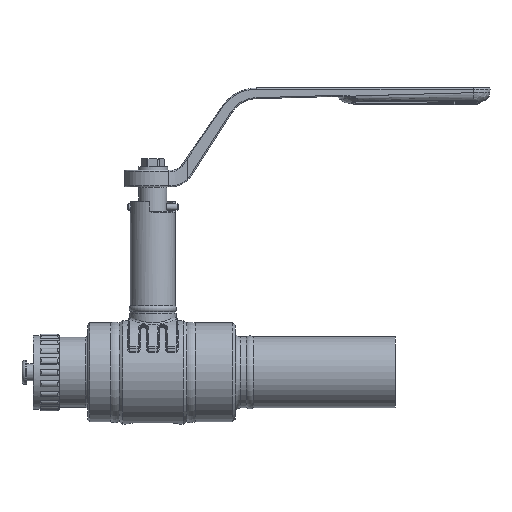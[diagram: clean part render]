
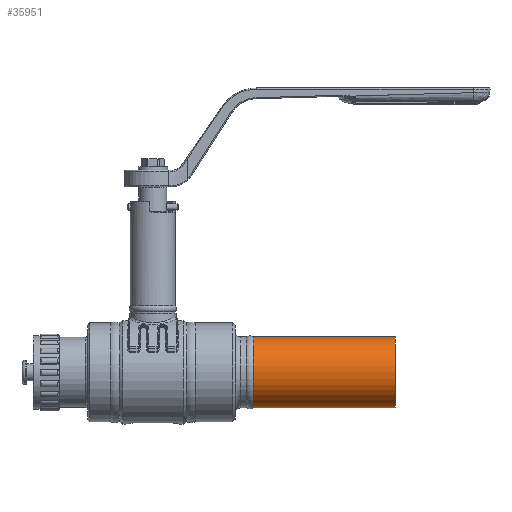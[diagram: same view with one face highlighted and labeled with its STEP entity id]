
A CAD part, front view. The second image highlights one B-rep face of the part: STEP entity #35951.
In plain terms, the highlighted cylindrical face has radius 16.85 mm (diameter 33.7 mm), a partial arc.
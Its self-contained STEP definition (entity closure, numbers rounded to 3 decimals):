
#10197=CARTESIAN_POINT('',(47.6,0.,0.));
#10198=DIRECTION('',(1.,0.,0.));
#10199=DIRECTION('',(0.,0.,1.));
#10200=AXIS2_PLACEMENT_3D('',#10197,#10198,#10199);
#10207=DIRECTION('',(1.,0.,0.));
#10208=VECTOR('',#10207,67.4);
#10209=CARTESIAN_POINT('',(47.6,0.,-16.85));
#10210=LINE('',#10209,#10208);
#10211=DIRECTION('',(1.,0.,0.));
#10212=VECTOR('',#10211,67.4);
#10213=CARTESIAN_POINT('',(47.6,0.,16.85));
#10214=LINE('',#10213,#10212);
#10215=CARTESIAN_POINT('',(115.,0.,0.));
#10216=DIRECTION('',(1.,0.,0.));
#10217=DIRECTION('',(0.,0.,1.));
#10218=AXIS2_PLACEMENT_3D('',#10215,#10216,#10217);
#16641=CARTESIAN_POINT('',(115.,0.,16.85));
#16642=CARTESIAN_POINT('',(115.,0.,-16.85));
#16643=VERTEX_POINT('',#16641);
#16644=VERTEX_POINT('',#16642);
#17653=CARTESIAN_POINT('',(47.6,0.,16.85));
#17654=CARTESIAN_POINT('',(47.6,0.,-16.85));
#17655=VERTEX_POINT('',#17653);
#17656=VERTEX_POINT('',#17654);
#35937=CARTESIAN_POINT('',(42.55,0.,0.));
#35938=DIRECTION('',(1.,0.,0.));
#35939=DIRECTION('',(0.,0.,1.));
#35940=AXIS2_PLACEMENT_3D('',#35937,#35938,#35939);
#35941=CYLINDRICAL_SURFACE('',#35940,16.85);
#35942=ORIENTED_EDGE('',*,*,#35912,.F.);
#35944=ORIENTED_EDGE('',*,*,#35943,.T.);
#35946=ORIENTED_EDGE('',*,*,#35945,.T.);
#35948=ORIENTED_EDGE('',*,*,#35947,.F.);
#35949=EDGE_LOOP('',(#35942,#35944,#35946,#35948));
#35950=FACE_OUTER_BOUND('',#35949,.F.);
#10201=CIRCLE('',#10200,16.85);
#10219=CIRCLE('',#10218,16.85);
#35912=EDGE_CURVE('',#17655,#17656,#10201,.T.);
#35943=EDGE_CURVE('',#17655,#16643,#10214,.T.);
#35945=EDGE_CURVE('',#16643,#16644,#10219,.T.);
#35947=EDGE_CURVE('',#17656,#16644,#10210,.T.);
#35951=ADVANCED_FACE('',(#35950),#35941,.T.);
